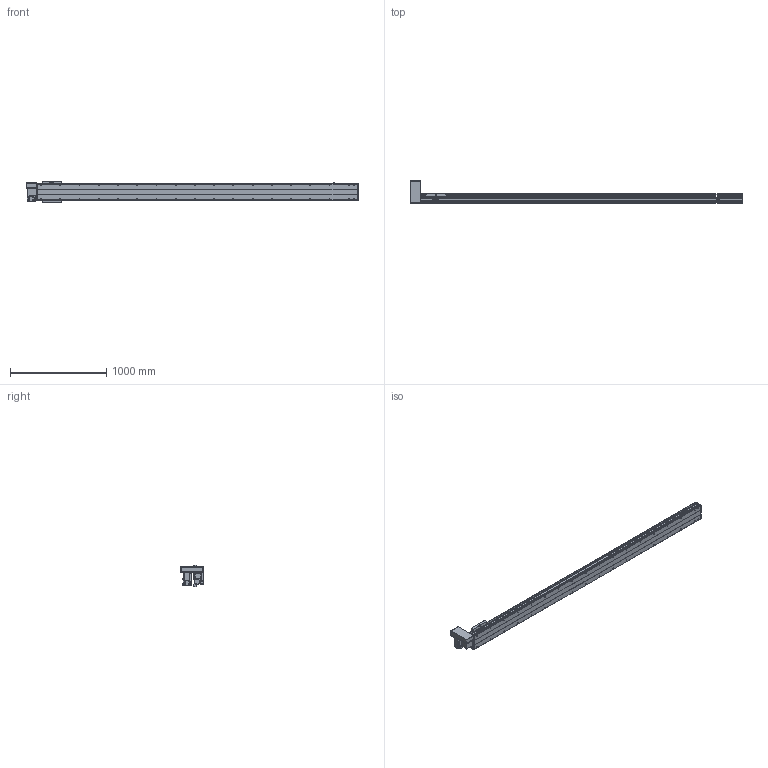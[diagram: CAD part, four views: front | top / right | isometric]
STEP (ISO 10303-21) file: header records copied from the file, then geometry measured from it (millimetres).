
FILE_DESCRIPTION(/* description */ ('STEP AP214'),/* implementation_level */ '2;1');
FILE_NAME(/* name */ 'PBS200-P40-S2950-RU-T75-C1-N(0)',/* time_stamp */ '2022-06-11T09:38:03+02:00',/* author */ ('License CC BY-ND 4.0'),/* organization */ ('CADENAS'),/* preprocessor_version */ 'ST-DEVELOPER v18.102',/* originating_system */ 'PARTsolutions',/* authorisation */ ' ');
FILE_SCHEMA (('AUTOMOTIVE_DESIGN {1 0 10303 214 3 1 1}'));
Length unit declared in the file: millimetre
Products named in the file (7): PBS200-P40-S2950-RU-T75-C1-N(0); PBS200_sensor; PBS200_plant; PBS200_sliser; T75-p1; PBS200T-RU_motors; PBS200-S2950()_body
Assembly tree (8 placements, depth 2):
  PBS200-P40-S2950-RU-T75-C1-N(0)
    PBS200_sensor  x3
    PBS200_plant
    PBS200_sliser
    T75-p1
    PBS200T-RU_motors
    PBS200-S2950()_body
Bounding box: 3450 x 231 x 221 mm (x, y, z)
Volume: 23413517.1 mm3; surface area: 3739618.7 mm2
Topology: 8 solids, 8 shells, 980 faces, 2474 edges, 1608 vertices
Faces by surface type: plane 594, cylinder 318, cone 68
Full cylindrical faces by diameter (mm): 2.459 x6, 3.242 x4, 4.5 x6, 4.917 x4, 5 x6, 6 x7, 6.6 x8, 6.647 x40, 8 x6, 10 x4, 12 x8, 38 x2, 40 x1, 70 x1
Entity records: 25781 total; most frequent: DIRECTION 4567, CARTESIAN_POINT 4372, ORIENTED_EDGE 4102, EDGE_CURVE 2051, AXIS2_PLACEMENT_3D 1627, VERTEX_POINT 1432, LINE 1313, VECTOR 1313
